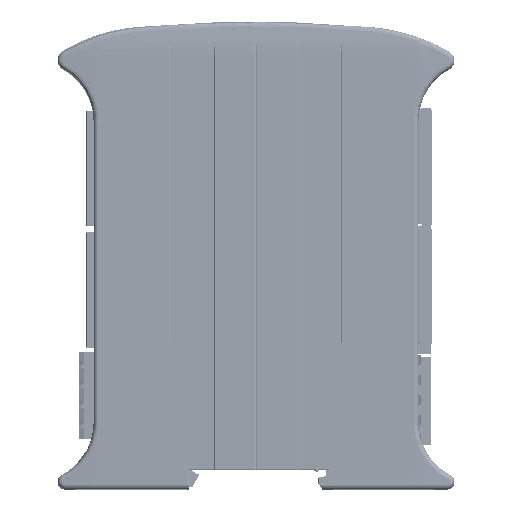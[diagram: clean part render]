
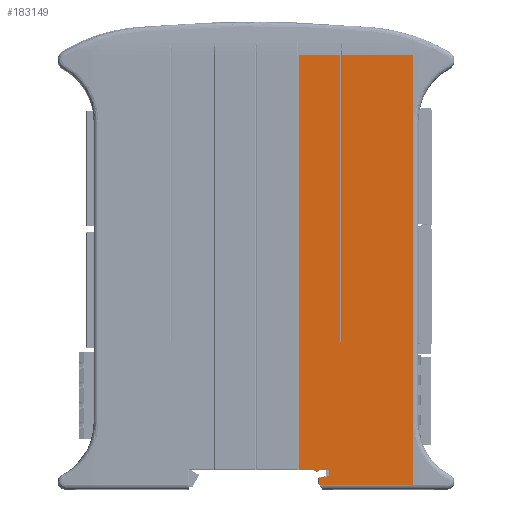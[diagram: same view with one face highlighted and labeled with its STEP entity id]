
A CAD part, top view. The second image highlights one B-rep face of the part: STEP entity #183149.
In plain terms, the highlighted planar face has unit normal (0, 0, 1).
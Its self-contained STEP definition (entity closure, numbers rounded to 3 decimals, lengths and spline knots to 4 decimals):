
#23260=LINE('',#300271,#43247);
#23261=LINE('',#300273,#43248);
#23262=LINE('',#300275,#43249);
#23263=LINE('',#300277,#43250);
#23264=LINE('',#300279,#43251);
#23265=LINE('',#300281,#43252);
#23266=LINE('',#300283,#43253);
#23267=LINE('',#300285,#43254);
#23268=LINE('',#300289,#43255);
#23269=LINE('',#300291,#43256);
#23270=LINE('',#300293,#43257);
#23271=LINE('',#300295,#43258);
#23272=LINE('',#300297,#43259);
#23273=LINE('',#300298,#43260);
#43247=VECTOR('',#241359,0.3937);
#43248=VECTOR('',#241360,0.3937);
#43249=VECTOR('',#241361,0.3937);
#43250=VECTOR('',#241362,0.3937);
#43251=VECTOR('',#241363,0.3937);
#43252=VECTOR('',#241364,0.3937);
#43253=VECTOR('',#241365,0.3937);
#43254=VECTOR('',#241366,0.3937);
#43255=VECTOR('',#241369,0.3937);
#43256=VECTOR('',#241370,0.3937);
#43257=VECTOR('',#241371,0.3937);
#43258=VECTOR('',#241372,0.3937);
#43259=VECTOR('',#241373,0.3937);
#43260=VECTOR('',#241374,0.3937);
#50589=PLANE('',#196238);
#59303=FACE_OUTER_BOUND('',#68885,.T.);
#68885=EDGE_LOOP('',(#162619,#162620,#162621,#162622,#162623,#162624,#162625,
#162626,#162627,#162628,#162629,#162630,#162631,#162632,#162633));
#72474=CIRCLE('',#196239,0.0157);
#88797=VERTEX_POINT('',#300269);
#88798=VERTEX_POINT('',#300270);
#88799=VERTEX_POINT('',#300272);
#88800=VERTEX_POINT('',#300274);
#88801=VERTEX_POINT('',#300276);
#88802=VERTEX_POINT('',#300278);
#88803=VERTEX_POINT('',#300280);
#88804=VERTEX_POINT('',#300282);
#88805=VERTEX_POINT('',#300284);
#88806=VERTEX_POINT('',#300286);
#88807=VERTEX_POINT('',#300288);
#88808=VERTEX_POINT('',#300290);
#88809=VERTEX_POINT('',#300292);
#88810=VERTEX_POINT('',#300294);
#88811=VERTEX_POINT('',#300296);
#113551=EDGE_CURVE('',#88797,#88798,#23260,.T.);
#113552=EDGE_CURVE('',#88799,#88797,#23261,.T.);
#113553=EDGE_CURVE('',#88799,#88800,#23262,.T.);
#113554=EDGE_CURVE('',#88800,#88801,#23263,.T.);
#113555=EDGE_CURVE('',#88801,#88802,#23264,.T.);
#113556=EDGE_CURVE('',#88803,#88802,#23265,.T.);
#113557=EDGE_CURVE('',#88803,#88804,#23266,.T.);
#113558=EDGE_CURVE('',#88805,#88804,#23267,.T.);
#113559=EDGE_CURVE('',#88806,#88805,#72474,.T.);
#113560=EDGE_CURVE('',#88807,#88806,#23268,.T.);
#113561=EDGE_CURVE('',#88808,#88807,#23269,.T.);
#113562=EDGE_CURVE('',#88809,#88808,#23270,.T.);
#113563=EDGE_CURVE('',#88810,#88809,#23271,.T.);
#113564=EDGE_CURVE('',#88811,#88810,#23272,.T.);
#113565=EDGE_CURVE('',#88798,#88811,#23273,.T.);
#162619=ORIENTED_EDGE('',*,*,#113551,.F.);
#162620=ORIENTED_EDGE('',*,*,#113552,.F.);
#162621=ORIENTED_EDGE('',*,*,#113553,.T.);
#162622=ORIENTED_EDGE('',*,*,#113554,.T.);
#162623=ORIENTED_EDGE('',*,*,#113555,.T.);
#162624=ORIENTED_EDGE('',*,*,#113556,.F.);
#162625=ORIENTED_EDGE('',*,*,#113557,.T.);
#162626=ORIENTED_EDGE('',*,*,#113558,.F.);
#162627=ORIENTED_EDGE('',*,*,#113559,.F.);
#162628=ORIENTED_EDGE('',*,*,#113560,.F.);
#162629=ORIENTED_EDGE('',*,*,#113561,.F.);
#162630=ORIENTED_EDGE('',*,*,#113562,.F.);
#162631=ORIENTED_EDGE('',*,*,#113563,.F.);
#162632=ORIENTED_EDGE('',*,*,#113564,.F.);
#162633=ORIENTED_EDGE('',*,*,#113565,.F.);
#183149=ADVANCED_FACE('',(#59303),#50589,.F.);
#196238=AXIS2_PLACEMENT_3D('',#300268,#241357,#241358);
#196239=AXIS2_PLACEMENT_3D('',#300287,#241367,#241368);
#241357=DIRECTION('center_axis',(0.,0.,
-1.));
#241358=DIRECTION('ref_axis',(-1.,0.,0.));
#241359=DIRECTION('',(0.,-1.,0.));
#241360=DIRECTION('',(1.,0.,0.));
#241361=DIRECTION('',(0.,-1.,0.));
#241362=DIRECTION('',(-1.,0.,0.));
#241363=DIRECTION('',(0.,1.,0.));
#241364=DIRECTION('',(1.,0.,0.));
#241365=DIRECTION('',(0.,-1.,0.));
#241366=DIRECTION('',(-1.,0.,0.));
#241367=DIRECTION('center_axis',(0.,0.,
-1.));
#241368=DIRECTION('ref_axis',(0.,-1.,0.));
#241369=DIRECTION('',(-1.,0.,0.));
#241370=DIRECTION('',(0.,1.,0.));
#241371=DIRECTION('',(0.983,0.182,0.));
#241372=DIRECTION('',(0.,1.,0.));
#241373=DIRECTION('',(-0.555,0.832,0.));
#241374=DIRECTION('',(-1.,0.,0.));
#300268=CARTESIAN_POINT('Origin',(-1.628,2.0906,1.7953));
#300269=CARTESIAN_POINT('',(-0.0543,4.1008,1.7953));
#300270=CARTESIAN_POINT('',(-0.0543,-0.2047,1.7953));
#300271=CARTESIAN_POINT('',(-0.0543,0.9193,1.7953));
#300272=CARTESIAN_POINT('',(-0.7677,4.1008,1.7953));
#300273=CARTESIAN_POINT('',(-1.628,4.1008,1.7953));
#300274=CARTESIAN_POINT('',(-0.7677,1.2244,1.7953));
#300275=CARTESIAN_POINT('',(-0.7677,1.6575,1.7953));
#300276=CARTESIAN_POINT('',(-0.7874,1.2244,1.7953));
#300277=CARTESIAN_POINT('',(-1.2077,1.2244,1.7953));
#300278=CARTESIAN_POINT('',(-0.7874,4.1008,1.7953));
#300279=CARTESIAN_POINT('',(-0.7874,3.1732,1.7953));
#300280=CARTESIAN_POINT('',(-1.1929,4.1008,1.7953));
#300281=CARTESIAN_POINT('',(-1.628,4.1008,1.7953));
#300282=CARTESIAN_POINT('',(-1.1929,-0.0512,1.7953));
#300283=CARTESIAN_POINT('',(-1.1929,1.0177,1.7953));
#300284=CARTESIAN_POINT('',(-1.029,-0.0512,1.7953));
#300285=CARTESIAN_POINT('',(-1.9646,-0.0512,1.7953));
#300286=CARTESIAN_POINT('',(-0.9985,-0.0512,1.7953));
#300287=CARTESIAN_POINT('Origin',(-1.0138,-0.0551,
1.7953));
#300288=CARTESIAN_POINT('',(-0.8917,-0.0512,1.7953));
#300289=CARTESIAN_POINT('',(-1.9646,-0.0512,1.7953));
#300290=CARTESIAN_POINT('',(-0.8917,-0.1174,1.7953));
#300291=CARTESIAN_POINT('',(-0.8917,1.0177,1.7953));
#300292=CARTESIAN_POINT('',(-0.998,-0.1371,1.7953));
#300293=CARTESIAN_POINT('',(-1.0516,-0.147,1.7953));
#300294=CARTESIAN_POINT('',(-0.998,-0.1917,1.7953));
#300295=CARTESIAN_POINT('',(-0.998,1.0177,1.7953));
#300296=CARTESIAN_POINT('',(-0.9894,-0.2047,1.7953));
#300297=CARTESIAN_POINT('',(-1.622,0.7442,1.7953));
#300298=CARTESIAN_POINT('',(-2.622,-0.2047,1.7953));
